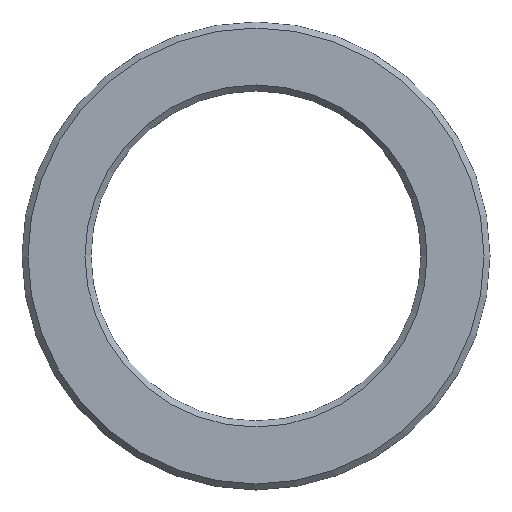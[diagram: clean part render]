
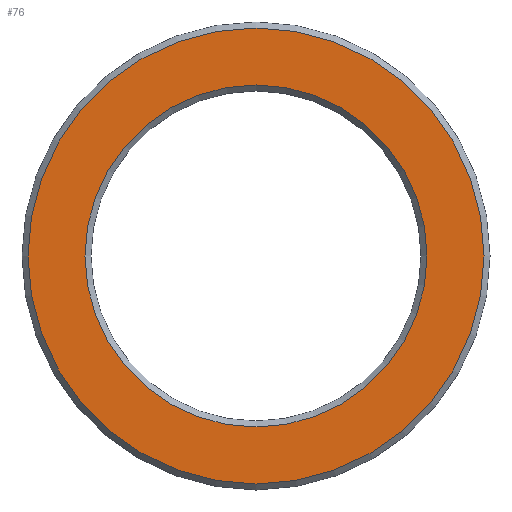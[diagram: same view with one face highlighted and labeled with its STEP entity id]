
A CAD part, left-side view. The second image highlights one B-rep face of the part: STEP entity #76.
In plain terms, the highlighted planar face has unit normal (-1, 0, 0).
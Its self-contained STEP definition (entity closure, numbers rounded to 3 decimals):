
#17=PLANE('',#86);
#20=FACE_BOUND('',#34,.T.);
#26=FACE_OUTER_BOUND('',#33,.T.);
#33=EDGE_LOOP('',(#63));
#34=EDGE_LOOP('',(#64));
#44=CIRCLE('',#85,28.5);
#45=CIRCLE('',#87,38.);
#50=VERTEX_POINT('',#125);
#51=VERTEX_POINT('',#128);
#56=EDGE_CURVE('',#50,#50,#44,.T.);
#57=EDGE_CURVE('',#51,#51,#45,.T.);
#63=ORIENTED_EDGE('',*,*,#57,.F.);
#64=ORIENTED_EDGE('',*,*,#56,.F.);
#76=ADVANCED_FACE('',(#26,#20),#17,.T.);
#85=AXIS2_PLACEMENT_3D('',#126,#101,#102);
#86=AXIS2_PLACEMENT_3D('',#127,#103,#104);
#87=AXIS2_PLACEMENT_3D('',#129,#105,#106);
#101=DIRECTION('center_axis',(-1.,0.,0.));
#102=DIRECTION('ref_axis',(0.,-1.,0.));
#103=DIRECTION('center_axis',(-1.,0.,0.));
#104=DIRECTION('ref_axis',(0.,0.,1.));
#105=DIRECTION('center_axis',(1.,0.,0.));
#106=DIRECTION('ref_axis',(0.,-1.,0.));
#125=CARTESIAN_POINT('',(0.,28.5,0.));
#126=CARTESIAN_POINT('Origin',(0.,0.,0.));
#127=CARTESIAN_POINT('Origin',(0.,39.,0.));
#128=CARTESIAN_POINT('',(0.,38.,0.));
#129=CARTESIAN_POINT('Origin',(0.,0.,0.));
